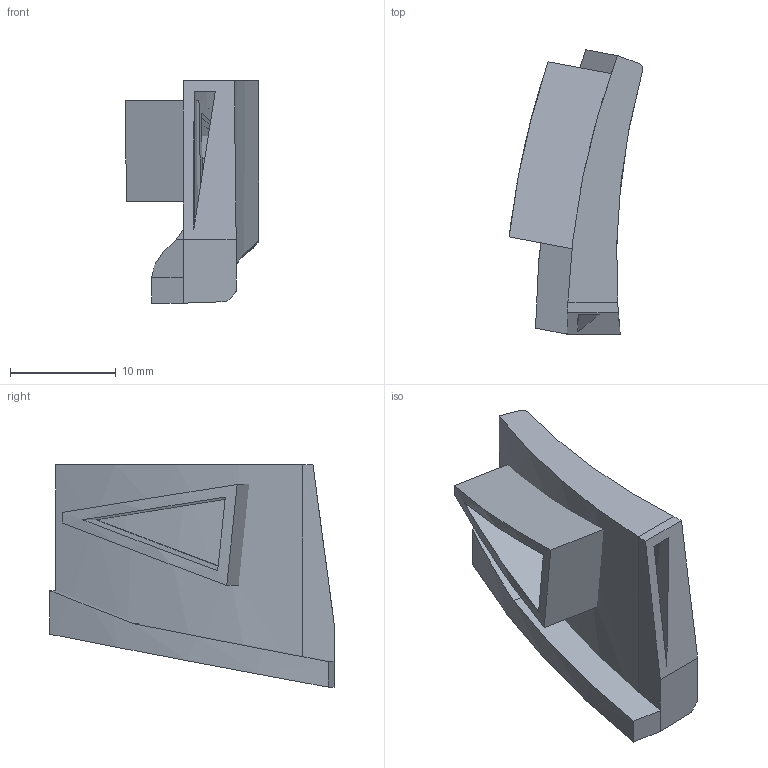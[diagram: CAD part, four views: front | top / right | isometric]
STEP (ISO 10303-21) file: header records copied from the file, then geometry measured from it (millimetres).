
FILE_DESCRIPTION(/* description */ (''),/* implementation_level */ '2;1');
FILE_NAME(/* name */ 'Internal part.step',/* time_stamp */ '2025-11-18T10:53:15+01:00',/* author */ (''),/* organization */ (''),/* preprocessor_version */ 'ST-DEVELOPER v20.1',/* originating_system */ 'Autodesk Translation Framework v14.21.0.0',/* authorisation */ '');
FILE_SCHEMA (('AUTOMOTIVE_DESIGN { 1 0 10303 214 3 1 1 }'));
Length unit declared in the file: millimetre
Products named in the file (1): Bolle dmuchawka uproszczona
Bounding box: 12.62 x 26.85 x 21 mm (x, y, z)
Volume: 1493.2 mm3; surface area: 3240.9 mm2
Topology: 4 solids, 4 shells, 47 faces, 112 edges, 72 vertices
Faces by surface type: plane 30, cylinder 11, bspline 5, cone 1
Entity records: 1643 total; most frequent: CARTESIAN_POINT 527, ORIENTED_EDGE 220, DIRECTION 214, EDGE_CURVE 110, AXIS2_PLACEMENT_3D 77, VERTEX_POINT 72, LINE 60, VECTOR 60
